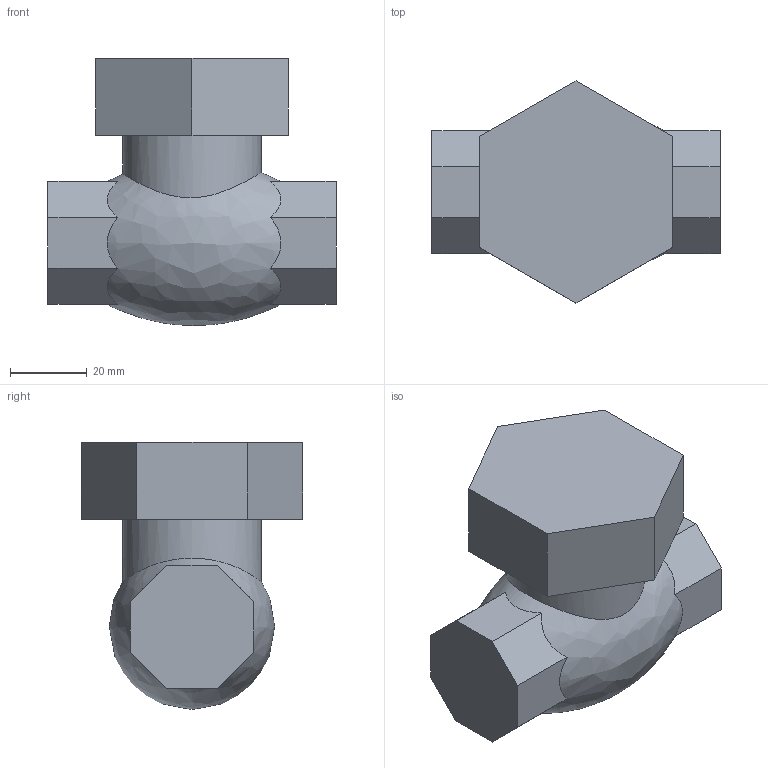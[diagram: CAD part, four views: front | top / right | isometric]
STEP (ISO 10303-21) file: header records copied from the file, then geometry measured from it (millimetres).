
FILE_DESCRIPTION(/* description */ (''),/* implementation_level */ '2;1');
FILE_NAME(/* name */ '15A.step',/* time_stamp */ '2023-12-08T09:28:40+09:00',/* author */ (''),/* organization */ (''),/* preprocessor_version */ 'ST-DEVELOPER v20',/* originating_system */ 'Autodesk Translation Framework v12.14.0.127',/* authorisation */ '');
FILE_SCHEMA (('AUTOMOTIVE_DESIGN { 1 0 10303 214 3 1 1 }'));
Length unit declared in the file: millimetre
Products named in the file (1): 15A
Bounding box: 75 x 57.73 x 69.5 mm (x, y, z)
Volume: 133857.5 mm3; surface area: 17713.1 mm2
Topology: 1 solids, 1 shells, 28 faces, 74 edges, 49 vertices
Faces by surface type: plane 26, bspline 1, cylinder 1
Full cylindrical faces by diameter (mm): 36 x1
Entity records: 1195 total; most frequent: CARTESIAN_POINT 513, ORIENTED_EDGE 148, DIRECTION 109, EDGE_CURVE 74, LINE 51, VECTOR 51, VERTEX_POINT 49, EDGE_LOOP 29
